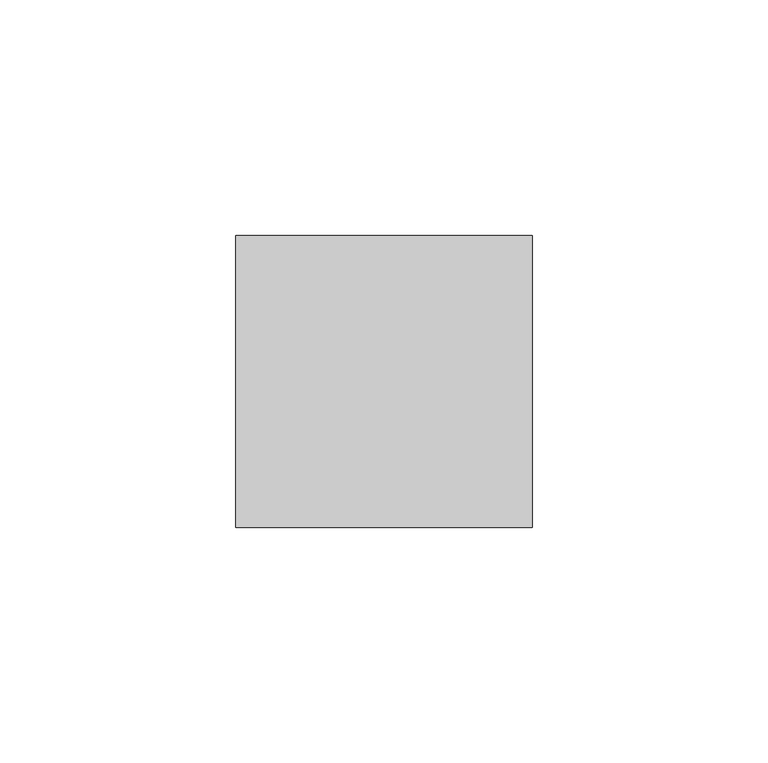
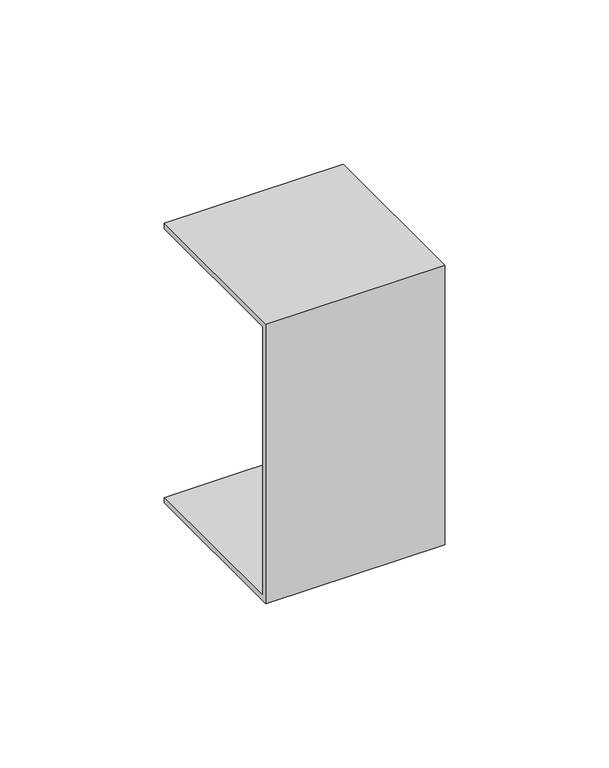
"""IFC4 building model written with IfcOpenShell, lengths in millimetres: proxy geometry, Соединитель_КМС : Соединитель КМС 100х60."""

from ifc_helpers import new_model, si_unit, frame, origin, place, context, project, spatial, polyline, outline, extrude, source, transform, mapped, element, save


def generic_models_177de2f0(model_context):
    return source(origin(), model_context, "Body", "SweptSolid", [
        extrude(outline(polyline([(-62.0, 42.0), (0.0, 42.0), (0.0, 40.0), (-60.0, 40.0), (-60.0, -60.0), (0.0, -60.0), (0.0, -62.0), (-62.0, -62.0), (-62.0, 42.0)])), frame((0.0, 0.0, 0.0), z_axis=(1.0, 0.0, 0.0), x_axis=(0.0, 1.0, 0.0)), (0.0, 0.0, 1.0), 63.0),
    ])


if __name__ == "__main__":
    model = new_model("IFC4")
    model_context = context("Model", 3, world=origin())
    ifc_project = project(units=[si_unit("LENGTHUNIT", "METRE", prefix="MILLI")], contexts=[model_context])
    site = spatial("IfcSite", under=ifc_project)
    building = spatial("IfcBuilding", under=site)
    placement = place(None, origin())
    generic_models_shape = generic_models_177de2f0(model_context)
    element("IfcBuildingElementProxy", 1, Name="Соединитель_КМС : Соединитель КМС 100х60", ObjectType="Соединитель_КМС : Соединитель КМС 100х60", at=placement, inside=building, context=model_context, shape_type="MappedRepresentation", body=[
        mapped(generic_models_shape, transform((0.0, 0.0, 0.0), x_axis=(1.0, 0.0, 0.0), y_axis=(0.0, 1.0, 0.0), z_axis=(0.0, 0.0, 1.0))),
    ])
    save(model, "model.ifc")
